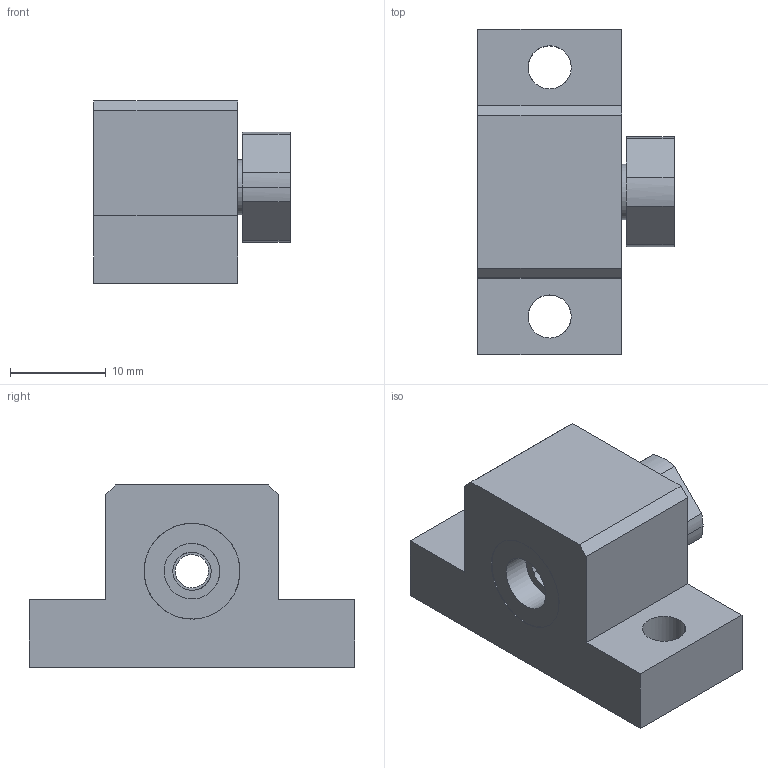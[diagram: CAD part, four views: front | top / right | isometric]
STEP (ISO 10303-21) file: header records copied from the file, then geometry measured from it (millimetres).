
FILE_DESCRIPTION(('CATIA V5 STEP Exchange'),'2;1');
FILE_NAME('D:\서포트 완성도면\EK\EK4 P5.stp','2014-03-24T10:08:37+00:00',('none'),('none'),'CATIA Version 5 Release 18 GA (IN-10)','CATIA V5 STEP AP203','none');
FILE_SCHEMA(('CONFIG_CONTROL_DESIGN'));
Length unit declared in the file: millimetre
Products named in the file (1): EK4 P5
Assembly tree (3 placements, depth 2):
  EK4 P5
    #56
    #1072
    #1335
Bounding box: 20.5 x 34 x 19 mm (x, y, z)
Volume: 6755.1 mm3; surface area: 3380.2 mm2
Topology: 3 solids, 3 shells, 47 faces, 114 edges, 76 vertices
Faces by surface type: cylinder 24, plane 23
Entity records: 1803 total; most frequent: CARTESIAN_POINT 654, ORIENTED_EDGE 228, DIRECTION 179, EDGE_CURVE 114, VERTEX_POINT 76, VECTOR 66, LINE 66, AXIS2_PLACEMENT_3D 65
